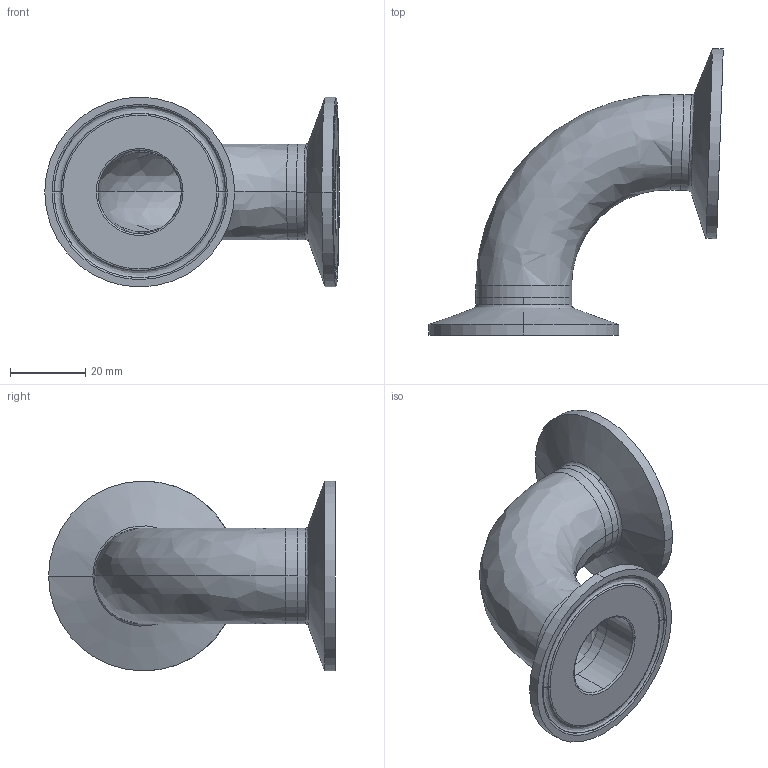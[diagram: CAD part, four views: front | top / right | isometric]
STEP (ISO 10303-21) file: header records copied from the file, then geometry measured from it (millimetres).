
FILE_DESCRIPTION (( 'STEP AP214' ), '1' );
FILE_NAME ('TEG2C926L1.0-...STEP', '2016-05-22T11:34:03', ( 'eran' ), ( '' ), 'SwSTEP 2.0', 'SolidWorks 2016', '' );
FILE_SCHEMA (( 'AUTOMOTIVE_DESIGN' ));
Length unit declared in the file: millimetre
Products named in the file (1): TEG2C926L1.0-..
Bounding box: 78.15 x 76.08 x 50.39 mm (x, y, z)
Volume: 24853.3 mm3; surface area: 19692.4 mm2
Topology: 3 solids, 3 shells, 64 faces, 156 edges, 100 vertices
Faces by surface type: bspline 24, cylinder 20, cone 12, plane 8
Entity records: 3040 total; most frequent: CARTESIAN_POINT 1485, DIRECTION 338, ORIENTED_EDGE 312, EDGE_CURVE 156, AXIS2_PLACEMENT_3D 153, CIRCLE 112, VERTEX_POINT 100, EDGE_LOOP 72
